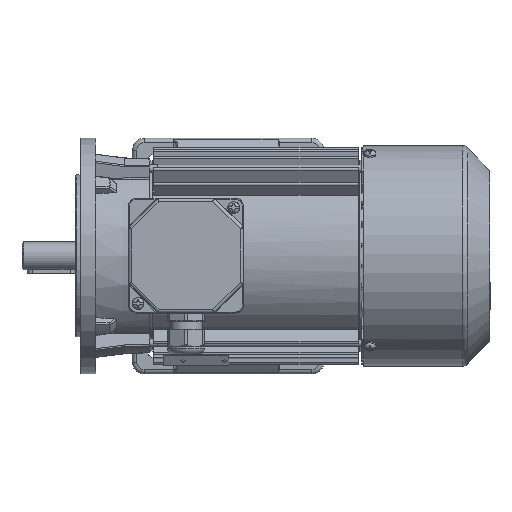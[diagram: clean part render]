
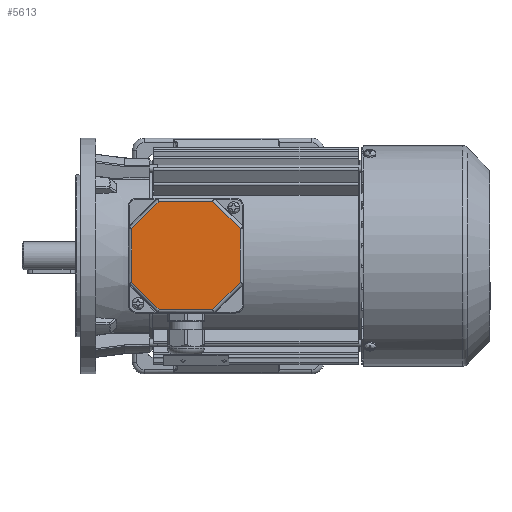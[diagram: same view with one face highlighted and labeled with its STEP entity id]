
A CAD part, top view. The second image highlights one B-rep face of the part: STEP entity #5613.
In plain terms, the highlighted planar face has unit normal (0, 0, 1).
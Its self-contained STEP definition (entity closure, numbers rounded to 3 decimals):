
#5613 = ADVANCED_FACE( '', ( #12674 ), #12675, .T. );
#12674 = FACE_OUTER_BOUND( '', #38524, .T. );
#12675 = PLANE( '', #38525 );
#38524 = EDGE_LOOP( '', ( #80060, #80061, #80062, #80063, #80064, #80065, #80066, #80067 ) );
#38525 = AXIS2_PLACEMENT_3D( '', #80068, #80069, #80070 );
#80060 = ORIENTED_EDGE( '', *, *, #97322, .T. );
#80061 = ORIENTED_EDGE( '', *, *, #101891, .T. );
#80062 = ORIENTED_EDGE( '', *, *, #101892, .T. );
#80063 = ORIENTED_EDGE( '', *, *, #101893, .T. );
#80064 = ORIENTED_EDGE( '', *, *, #101894, .T. );
#80065 = ORIENTED_EDGE( '', *, *, #101895, .T. );
#80066 = ORIENTED_EDGE( '', *, *, #101896, .T. );
#80067 = ORIENTED_EDGE( '', *, *, #101230, .T. );
#80068 = CARTESIAN_POINT( '', ( -39., 39., 12. ) );
#80069 = DIRECTION( '', ( 0., 0., 1. ) );
#80070 = DIRECTION( '', ( 1., 0., 0. ) );
#97322 = EDGE_CURVE( '', #109144, #109142, #109145, .F. );
#101230 = EDGE_CURVE( '', #110775, #109144, #115639, .T. );
#101891 = EDGE_CURVE( '', #109142, #116645, #116646, .T. );
#101892 = EDGE_CURVE( '', #116645, #112343, #116647, .F. );
#101893 = EDGE_CURVE( '', #112343, #116648, #116649, .T. );
#101894 = EDGE_CURVE( '', #116648, #116650, #116651, .F. );
#101895 = EDGE_CURVE( '', #116650, #115754, #116652, .T. );
#101896 = EDGE_CURVE( '', #115754, #110775, #116653, .F. );
#109142 = VERTEX_POINT( '', #126373 );
#109144 = VERTEX_POINT( '', #126375 );
#109145 = LINE( '', #126376, #126377 );
#110775 = VERTEX_POINT( '', #131451 );
#112343 = VERTEX_POINT( '', #135970 );
#115639 = LINE( '', #150186, #150187 );
#115754 = VERTEX_POINT( '', #150460 );
#116645 = VERTEX_POINT( '', #154166 );
#116646 = LINE( '', #154167, #154168 );
#116647 = LINE( '', #154169, #154170 );
#116648 = VERTEX_POINT( '', #154171 );
#116649 = LINE( '', #154172, #154173 );
#116650 = VERTEX_POINT( '', #154174 );
#116651 = LINE( '', #154175, #154176 );
#116652 = LINE( '', #154177, #154178 );
#116653 = LINE( '', #154179, #154180 );
#126373 = CARTESIAN_POINT( '', ( 36.825, 18.255, 12. ) );
#126375 = CARTESIAN_POINT( '', ( 36.825, -18.255, 12. ) );
#126376 = CARTESIAN_POINT( '', ( 36.825, 19.069, 12. ) );
#126377 = VECTOR( '', #174711, 1000. );
#131451 = CARTESIAN_POINT( '', ( 18.255, -36.825, 12. ) );
#135970 = CARTESIAN_POINT( '', ( -18.255, 36.825, 12. ) );
#150186 = CARTESIAN_POINT( '', ( 37.401, -17.679, 12. ) );
#150187 = VECTOR( '', #179234, 1000. );
#150460 = CARTESIAN_POINT( '', ( -18.255, -36.825, 12. ) );
#154166 = CARTESIAN_POINT( '', ( 18.255, 36.825, 12. ) );
#154167 = CARTESIAN_POINT( '', ( 17.679, 37.401, 12. ) );
#154168 = VECTOR( '', #179983, 1000. );
#154169 = CARTESIAN_POINT( '', ( -19.069, 36.825, 12. ) );
#154170 = VECTOR( '', #179984, 1000. );
#154171 = CARTESIAN_POINT( '', ( -36.825, 18.255, 12. ) );
#154172 = CARTESIAN_POINT( '', ( -37.401, 17.679, 12. ) );
#154173 = VECTOR( '', #179985, 1000. );
#154174 = CARTESIAN_POINT( '', ( -36.825, -18.255, 12. ) );
#154175 = CARTESIAN_POINT( '', ( -36.825, -19.069, 12. ) );
#154176 = VECTOR( '', #179986, 1000. );
#154177 = CARTESIAN_POINT( '', ( -17.679, -37.401, 12. ) );
#154178 = VECTOR( '', #179987, 1000. );
#154179 = CARTESIAN_POINT( '', ( 19.069, -36.825, 12. ) );
#154180 = VECTOR( '', #179988, 1000. );
#174711 = DIRECTION( '', ( 0., -1., 0. ) );
#179234 = DIRECTION( '', ( 0.707, 0.707, 0. ) );
#179983 = DIRECTION( '', ( -0.707, 0.707, 0. ) );
#179984 = DIRECTION( '', ( 1., 0., 0. ) );
#179985 = DIRECTION( '', ( -0.707, -0.707, 0. ) );
#179986 = DIRECTION( '', ( 0., 1., 0. ) );
#179987 = DIRECTION( '', ( 0.707, -0.707, 0. ) );
#179988 = DIRECTION( '', ( -1., 0., 0. ) );
